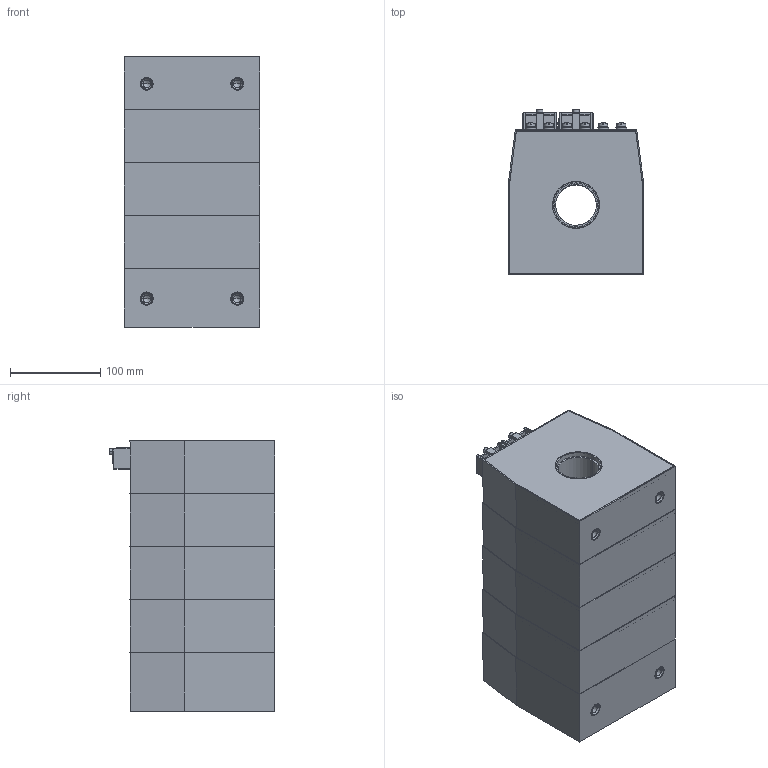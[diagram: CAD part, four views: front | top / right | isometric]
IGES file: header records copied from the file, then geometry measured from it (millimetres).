
Start section: IGES file generated from Kompas f.0 for Windows drawing by the IGES translator from Ascon Ltd., translator version IGESOUT-5.1.
Global section: file name: C:\Ðàáîòà\Èçâåùåíèÿ 5\ÒØÏ-ÍÒÇ-0.66-61...,71...,81... (ñáîðíûé)\Âåðñèÿ îò 21.05.24\3D ìîäåëü\ÒØÏ-ÍÒÇ-0,66-65À\ÒØÏ-ÍÒÇ-0,66-65À (45 ìì, 5-é ãàáàðèò).igs; native system: Kompas( 32 bit ) for Windows; preprocessor: 1.0; author: 123; organization: Microsoft; date: -17750727:093211; units: millimetre
Bounding box: 150 x 182.93 x 299 mm (x, y, z)
Volume: 926396.9 mm3; surface area: 628104.8 mm2
Topology: 45 solids, 45 shells, 970 faces, 2278 edges, 1418 vertices
Faces by surface type: revolution 534, bspline 436
